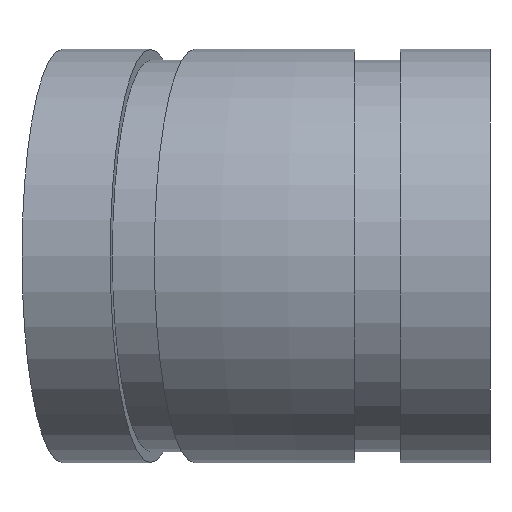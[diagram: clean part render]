
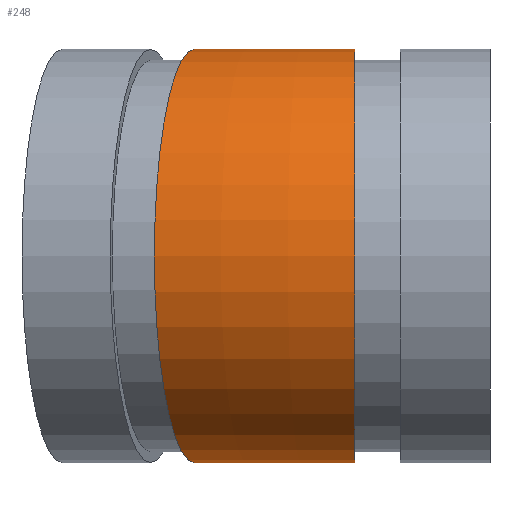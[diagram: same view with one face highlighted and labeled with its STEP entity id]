
A CAD part, left-side view. The second image highlights one B-rep face of the part: STEP entity #248.
In plain terms, the highlighted toroidal (fillet/blend) face has major radius 144.935 mm and minor radius 36.513 mm.
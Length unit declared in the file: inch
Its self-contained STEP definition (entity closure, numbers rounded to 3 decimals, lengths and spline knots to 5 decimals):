
#15=TOROIDAL_SURFACE('',#303,5.70608,1.4375);
#47=FACE_OUTER_BOUND('',#65,.T.);
#65=EDGE_LOOP('',(#190,#191,#192,#193,#194,#195));
#79=CIRCLE('',#283,1.4375);
#80=CIRCLE('',#284,1.4375);
#86=CIRCLE('',#293,1.4375);
#87=CIRCLE('',#294,1.4375);
#95=CIRCLE('',#304,4.26858);
#105=VERTEX_POINT('',#418);
#106=VERTEX_POINT('',#419);
#112=VERTEX_POINT('',#436);
#113=VERTEX_POINT('',#437);
#130=EDGE_CURVE('',#105,#106,#79,.T.);
#131=EDGE_CURVE('',#106,#105,#80,.T.);
#138=EDGE_CURVE('',#112,#113,#86,.T.);
#139=EDGE_CURVE('',#113,#112,#87,.T.);
#147=EDGE_CURVE('',#113,#106,#95,.T.);
#190=ORIENTED_EDGE('',*,*,#138,.T.);
#191=ORIENTED_EDGE('',*,*,#147,.T.);
#192=ORIENTED_EDGE('',*,*,#131,.T.);
#193=ORIENTED_EDGE('',*,*,#130,.T.);
#194=ORIENTED_EDGE('',*,*,#147,.F.);
#195=ORIENTED_EDGE('',*,*,#139,.T.);
#248=ADVANCED_FACE('',(#47),#15,.T.);
#283=AXIS2_PLACEMENT_3D('',#420,#334,#335);
#284=AXIS2_PLACEMENT_3D('',#421,#336,#337);
#293=AXIS2_PLACEMENT_3D('',#438,#355,#356);
#294=AXIS2_PLACEMENT_3D('',#439,#357,#358);
#303=AXIS2_PLACEMENT_3D('',#454,#375,#376);
#304=AXIS2_PLACEMENT_3D('',#455,#377,#378);
#334=DIRECTION('center_axis',(0.,1.,0.));
#335=DIRECTION('ref_axis',(1.,0.,0.));
#336=DIRECTION('center_axis',(0.,1.,0.));
#337=DIRECTION('ref_axis',(1.,0.,0.));
#355=DIRECTION('center_axis',(-0.195,-0.981,0.));
#356=DIRECTION('ref_axis',(0.981,-0.195,0.));
#357=DIRECTION('center_axis',(-0.195,-0.981,0.));
#358=DIRECTION('ref_axis',(0.981,-0.195,0.));
#375=DIRECTION('center_axis',(0.,0.,-1.));
#376=DIRECTION('ref_axis',(-1.,0.,0.));
#377=DIRECTION('center_axis',(0.,0.,1.));
#378=DIRECTION('ref_axis',(-1.,0.,0.));
#418=CARTESIAN_POINT('',(0.,0.938,1.4375));
#419=CARTESIAN_POINT('',(1.4375,0.938,0.));
#420=CARTESIAN_POINT('Origin',(0.,0.938,0.));
#421=CARTESIAN_POINT('Origin',(0.,0.938,0.));
#436=CARTESIAN_POINT('',(0.10964,2.0512,1.4375));
#437=CARTESIAN_POINT('',(1.51952,1.77076,0.));
#438=CARTESIAN_POINT('Origin',(0.10964,2.0512,0.));
#439=CARTESIAN_POINT('Origin',(0.10964,2.0512,0.));
#454=CARTESIAN_POINT('Origin',(5.70608,0.938,0.));
#455=CARTESIAN_POINT('Origin',(5.70608,0.938,0.));
